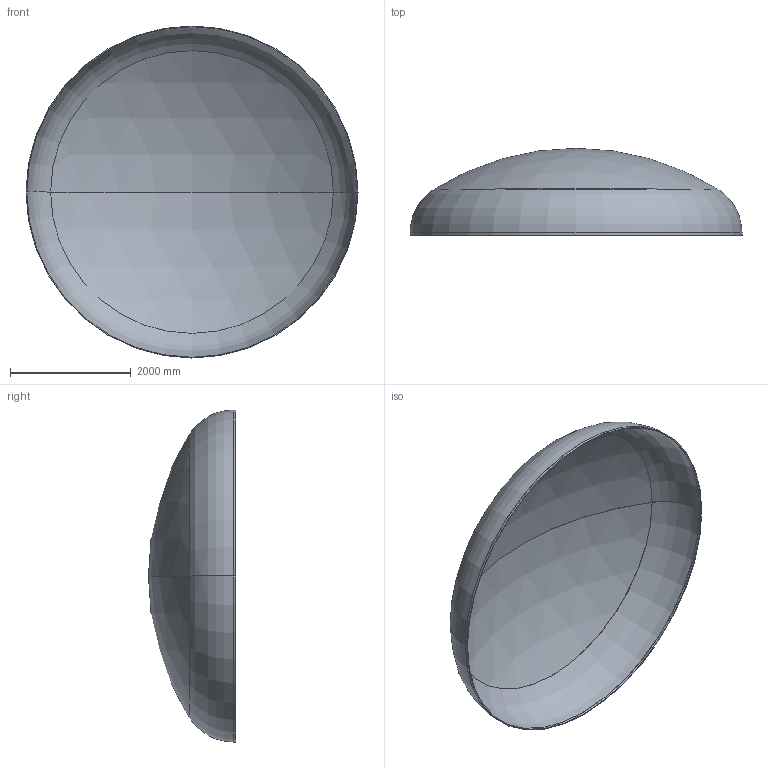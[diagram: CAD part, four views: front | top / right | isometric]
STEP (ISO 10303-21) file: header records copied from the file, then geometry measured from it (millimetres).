
FILE_DESCRIPTION (( 'STEP AP203' ), '1' );
FILE_NAME ('DIN 28013 Korbbogenform_-_Boden DIN 28013 - 5500 x 40 - I - s=12.step', '2016-07-04T10:33:35', ( '' ), ( '' ), 'SwSTEP 2.0', 'SolidWorks 2013', '' );
FILE_SCHEMA (( 'CONFIG_CONTROL_DESIGN' ));
Length unit declared in the file: millimetre
Products named in the file (1): DIN 28013 Korbbogenform_-_Boden DIN 28013 - 5500 x 40 - I - s=12
Bounding box: 5500 x 1442.92 x 5500 mm (x, y, z)
Volume: 401851104.2 mm3; surface area: 67182350.7 mm2
Topology: 1 solids, 1 shells, 13 faces, 24 edges, 14 vertices
Faces by surface type: torus 4, cylinder 4, sphere 4, plane 1
Entity records: 407 total; most frequent: DIRECTION 72, CARTESIAN_POINT 52, ORIENTED_EDGE 48, AXIS2_PLACEMENT_3D 34, EDGE_CURVE 24, CIRCLE 20, EDGE_LOOP 14, VERTEX_POINT 14
